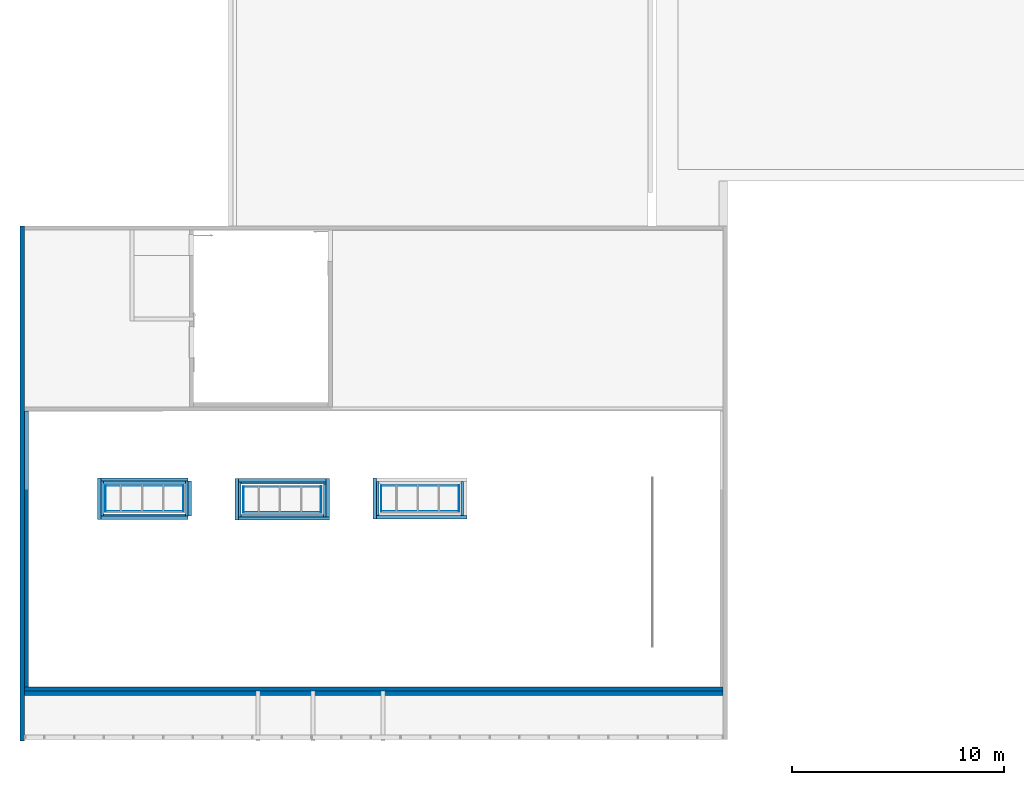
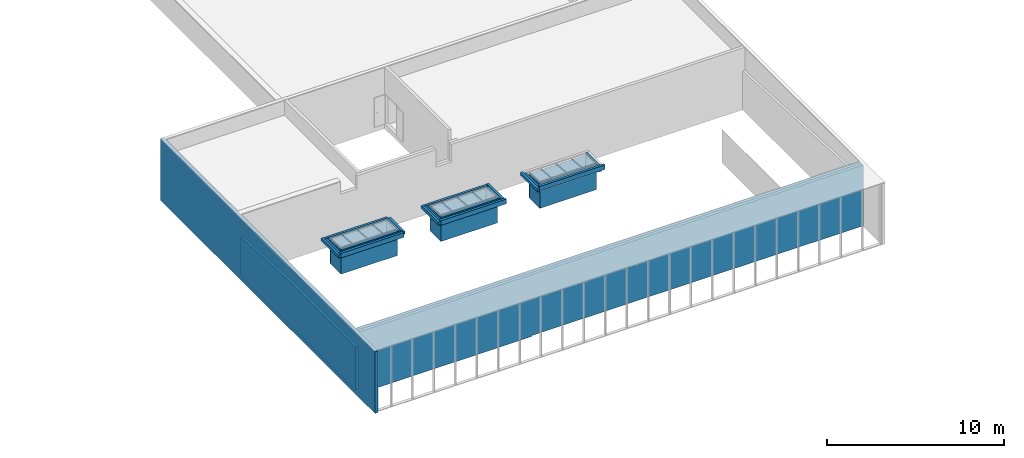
# One storey, part 35 of 106: 36 walls, 3 openings.
"""IFC2X3 building model written with IfcOpenShell, lengths in centimetres."""

from ifc_helpers import new_model, entity, si_unit, converted_unit, derived_unit, direction, frame, frame_2d, origin, place, context, subcontext, project, spatial, polyline, rectangle, extrude, clip, halfspace, bounded_halfspace, material, layer, layer_set, layer_usage, type_object, element, save


model = new_model("IFC2X3")

# Units and contexts
model_context = context("Model", 3, precision=0.001, world=origin(), true_north=direction((6.12303176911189e-17, 1.0)))
body_context = subcontext(model_context, "Body", "Model", "MODEL_VIEW")
ifc_project = project(units=[si_unit("LENGTHUNIT", "METRE", prefix="CENTI"), si_unit("AREAUNIT", "SQUARE_METRE"), si_unit("VOLUMEUNIT", "CUBIC_METRE"), converted_unit("PLANEANGLEUNIT", "DEGREE", entity("IfcRatioMeasure", 0.0174532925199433), si_unit("PLANEANGLEUNIT", "RADIAN"), dimensions=[0, 0, 0, 0, 0, 0, 0]), si_unit("MASSUNIT", "GRAM", prefix="KILO"), derived_unit("MASSDENSITYUNIT", [(si_unit("MASSUNIT", "GRAM", prefix="KILO"), 1), (si_unit("LENGTHUNIT", "METRE"), -3)]), si_unit("TIMEUNIT", "SECOND"), si_unit("FREQUENCYUNIT", "HERTZ"), si_unit("THERMODYNAMICTEMPERATUREUNIT", "DEGREE_CELSIUS"), derived_unit("THERMALTRANSMITTANCEUNIT", [(si_unit("MASSUNIT", "GRAM", prefix="KILO"), 1), (si_unit("THERMODYNAMICTEMPERATUREUNIT", "KELVIN"), -1), (si_unit("TIMEUNIT", "SECOND"), -3)]), derived_unit("VOLUMETRICFLOWRATEUNIT", [(si_unit("LENGTHUNIT", "METRE"), 3), (si_unit("TIMEUNIT", "SECOND"), -1)]), si_unit("ELECTRICCURRENTUNIT", "AMPERE"), si_unit("ELECTRICVOLTAGEUNIT", "VOLT"), si_unit("POWERUNIT", "WATT"), si_unit("FORCEUNIT", "NEWTON", prefix="KILO"), si_unit("ILLUMINANCEUNIT", "LUX"), si_unit("LUMINOUSFLUXUNIT", "LUMEN"), si_unit("LUMINOUSINTENSITYUNIT", "CANDELA"), derived_unit("USERDEFINED", [(si_unit("MASSUNIT", "GRAM", prefix="KILO"), -1), (si_unit("LENGTHUNIT", "METRE"), -2), (si_unit("TIMEUNIT", "SECOND"), 3), (si_unit("LUMINOUSFLUXUNIT", "LUMEN"), 1)]), derived_unit("LINEARVELOCITYUNIT", [(si_unit("LENGTHUNIT", "METRE"), 1), (si_unit("TIMEUNIT", "SECOND"), -1)]), si_unit("PRESSUREUNIT", "PASCAL"), derived_unit("USERDEFINED", [(si_unit("LENGTHUNIT", "METRE"), -2), (si_unit("MASSUNIT", "GRAM", prefix="KILO"), 1), (si_unit("TIMEUNIT", "SECOND"), -2)])], contexts=[model_context])

# Site, building, storey
site_placement = place(None, frame((-2781.94577612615, 7442.24238424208, 0.0)))
site = spatial("IfcSite", under=ifc_project, at=site_placement, Name="Default", CompositionType="ELEMENT")
building_placement = place(site_placement, origin())
building = spatial("IfcBuilding", under=site, at=building_placement, CompositionType="ELEMENT")
storey_placement = place(building_placement, frame((0.0, 0.0, 422.0)))
storey = spatial("IfcBuildingStorey", under=building, at=storey_placement, Name="Toiture - Cuisine", CompositionType="ELEMENT", Elevation=421.999999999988)

# Wall, opening
ifc_material_1 = material(Name="Aluminium bardage")
ifc_layer_1 = layer(ifc_material_1, 0.5)
ifc_material_2 = material(Name="01 - Lame d'air")
ifc_layer_2 = layer(ifc_material_2, 1.5)
ifc_material_3 = material(Name="00 - Isolant")
ifc_layer_3 = layer(ifc_material_3, 18.0)
ifc_layer_set_1 = layer_set([ifc_layer_1, ifc_layer_2, ifc_layer_3], Name="Mur de base:04 - Parement - ITE 18cm + vide 2cm")
ifc_layer_usage_1 = layer_usage(ifc_layer_set_1, "AXIS2", "POSITIVE", -10.0)
wall_type_1 = type_object("IfcWallType", Name="Mur de base:04 - Parement - ITE 18cm + vide 2cm", PredefinedType="STANDARD", material=ifc_layer_set_1)
wall_1_placement = place(building_placement, frame((-11864.3505746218, -5556.50173441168, 313.0)))
wall_1 = element("IfcWallStandardCase", 1, at=wall_1_placement, inside=storey, type_object=wall_type_1, material=ifc_layer_usage_1, Name="Mur de base:04 - Parement - ITE 18cm + vide 2cm", ObjectType="Mur de base:04 - Parement - ITE 18cm + vide 2cm", context=body_context, shape_type="SweptSolid", body=[
    extrude(rectangle(XDim=3295.36319372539, YDim=20.0000000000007, at=frame_2d((1647.6815968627, -8.26005930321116e-14), x_axis=(-1.0, 0.0))), origin(), (0.0, 0.0, 1.0), 427.0),
])
opening_1_placement = place(wall_1_placement, origin())
element("IfcOpeningElement", 2, at=opening_1_placement, cuts=wall_1, Name="Mur de base:04 - Parement - ITE 18cm + vide 2cm", ObjectType="Opening", context=body_context, shape_type="SweptSolid", body=[
    extrude(rectangle(XDim=319.50860145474, YDim=2180.12936523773, at=frame_2d((0.0, 0.0), x_axis=(0.0, 1.0))), frame((2219.59851110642, -25.2399999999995, -153.24569927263), z_axis=(0.0, 1.0, 0.0), x_axis=(-1.0, 0.0, 0.0)), (0.0, 0.0, 1.0), 50.4799999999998),
])

# Wall
ifc_material_4 = material(Name="01 - Maçonnerie")
ifc_layer_4 = layer(ifc_material_4, 20.0)
ifc_layer_set_2 = layer_set([ifc_layer_4], Name="Mur de base:04 - Structure - béton - 20cm")
ifc_layer_usage_2 = layer_usage(ifc_layer_set_2, "AXIS2", "NEGATIVE", 10.0)
wall_type_2 = type_object("IfcWallType", Name="Mur de base:04 - Structure - béton - 20cm", PredefinedType="STANDARD", material=ifc_layer_set_2)
wall_2_placement = place(building_placement, frame((-11874.3505746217, -3352.52180651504, 313.0), z_axis=(0.0, 0.0, 1.0), x_axis=(0.0, -1.0, 0.0)))
element("IfcWallStandardCase", 3, at=wall_2_placement, inside=storey, type_object=wall_type_2, material=ifc_layer_usage_2, Name="Mur de base:04 - Structure - béton - 20cm", ObjectType="Mur de base:04 - Structure - béton - 20cm", context=body_context, shape_type="SweptSolid", body=[
    extrude(rectangle(XDim=2428.97992789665, YDim=19.9999999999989, at=frame_2d((1214.48996394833, 2.21156426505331e-13), x_axis=(-1.0, 0.0))), origin(), (0.0, 0.0, 1.0), 426.99999999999),
])

# Wall, opening
ifc_layer_usage_3 = layer_usage(ifc_layer_set_2, "AXIS2", "NEGATIVE", 10.0)
wall_3_placement = place(building_placement, frame((-11864.3505746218, -5536.50173441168, 313.0)))
wall_3 = element("IfcWallStandardCase", 4, at=wall_3_placement, inside=storey, type_object=wall_type_2, material=ifc_layer_usage_3, Name="Mur de base:04 - Structure - béton - 20cm", ObjectType="Mur de base:04 - Structure - béton - 20cm", context=body_context, shape_type="SweptSolid", body=[
    extrude(rectangle(XDim=3295.36319372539, YDim=20.0000000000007, at=frame_2d((1647.6815968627, 7.8159700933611e-14), x_axis=(-1.0, 0.0))), origin(), (0.0, 0.0, 1.0), 427.0),
])
opening_2_placement = place(building_placement, frame((-11864.3505746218, -5536.50173441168, 313.0)))
element("IfcOpeningElement", 5, at=opening_2_placement, cuts=wall_3, Name="Mur de base:04 - Structure - béton - 20cm:1", ObjectType="Opening", context=body_context, shape_type="SweptSolid", body=[
    extrude(rectangle(XDim=19.9999999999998, YDim=1040.7, at=frame_2d((4.32542890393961e-13, 8.5265128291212e-13), x_axis=(1.0, 0.0))), frame((2759.71319372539, 0.0, 167.0), z_axis=(0.0, 0.0, 1.0), x_axis=(0.0, -1.0, 0.0)), (0.0, 0.0, 1.0), 6.99999999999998),
])

# Walls
ifc_layer_5 = layer(ifc_material_3, 16.0)
ifc_layer_set_3 = layer_set([ifc_layer_5], Name="Mur de base:04 - retour isolation acrotère - ITE 16cm")
ifc_layer_usage_4 = layer_usage(ifc_layer_set_3, "AXIS2", "NEGATIVE", 8.0)
wall_type_3 = type_object("IfcWallType", Name="Mur de base:04 - retour isolation acrotère - ITE 16cm", PredefinedType="STANDARD", material=ifc_layer_set_3)
wall_4_placement = place(building_placement, frame((-11512.3505746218, -4736.50027342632, 625.629986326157), z_axis=(0.0, 0.0, 1.0), x_axis=(0.0, 1.0, 0.0)))
element("IfcWallStandardCase", 6, at=wall_4_placement, inside=storey, type_object=wall_type_3, material=ifc_layer_usage_4, Name="Mur de base:04 - retour isolation acrotère - ITE 16cm", ObjectType="Mur de base:04 - retour isolation acrotère - ITE 16cm", context=body_context, shape_type="Clipping", body=[
    clip(extrude(rectangle(XDim=196.000000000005, YDim=15.9999999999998, at=frame_2d((98.0000000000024, 0.0), x_axis=(-1.0, 0.0))), origin(), (0.0, 0.0, 1.0), 20.0935257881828), bounded_halfspace(frame((47.145022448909, -8.0, 0.0), z_axis=(0.0523359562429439, 0.0, 0.998629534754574), x_axis=(0.0, 1.0, 0.0)), True, frame((47.145022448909, -8.0, 0.0), z_axis=(0.0523359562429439, 0.0, 0.998629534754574), x_axis=(0.0, 1.0, 0.0)), polyline([(0.0, 0.0), (16.0, 0.0), (16.0, 47.2097217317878), (0.0, 47.2097217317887), (0.0, 20.8925692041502), (0.0, 0.0)]))),
])
ifc_layer_usage_5 = layer_usage(ifc_layer_set_3, "AXIS2", "NEGATIVE", 8.0)
wall_5_placement = place(building_placement, frame((-11076.3505746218, -4728.50027342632, 620.73417307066), z_axis=(0.0, 0.0, 1.0), x_axis=(-1.0, 0.0, 0.0)))
element("IfcWallStandardCase", 7, at=wall_5_placement, inside=storey, type_object=wall_type_3, material=ifc_layer_usage_5, Name="Mur de base:04 - retour isolation acrotère - ITE 16cm", ObjectType="Mur de base:04 - retour isolation acrotère - ITE 16cm", context=body_context, shape_type="SweptSolid", body=[
    extrude(rectangle(XDim=411.999999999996, YDim=15.9999999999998, at=frame_2d((221.999999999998, 4.9737991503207e-14), x_axis=(-1.0, 0.0))), origin(), (0.0, 0.0, 1.0), 31.7658269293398),
])
ifc_layer_usage_6 = layer_usage(ifc_layer_set_3, "AXIS2", "NEGATIVE", 8.0)
wall_6_placement = place(building_placement, frame((-10862.3505746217, -4740.50027342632, 625.629986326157), z_axis=(0.0, 0.0, 1.0), x_axis=(0.0, 1.0, 0.0)))
element("IfcWallStandardCase", 8, at=wall_6_placement, inside=storey, type_object=wall_type_3, material=ifc_layer_usage_6, Name="Mur de base:04 - retour isolation acrotère - ITE 16cm", ObjectType="Mur de base:04 - retour isolation acrotère - ITE 16cm", context=body_context, shape_type="Clipping", body=[
    clip(extrude(rectangle(XDim=196.000000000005, YDim=15.9999999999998, at=frame_2d((98.0000000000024, 0.0), x_axis=(-1.0, 0.0))), origin(), (0.0, 0.0, 1.0), 20.0935257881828), bounded_halfspace(frame((51.1450224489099, -8.0, 0.0), z_axis=(0.0523359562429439, 0.0, 0.998629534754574), x_axis=(0.0, 1.0, 0.0)), True, frame((51.1450224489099, -8.0, 0.0), z_axis=(0.0523359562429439, 0.0, 0.998629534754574), x_axis=(0.0, 1.0, 0.0)), polyline([(0.0, 0.0), (16.0, 0.0), (16.0, 51.2152111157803), (0.0, 51.2152111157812), (0.0, 20.892569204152), (0.0, 0.0)]))),
])
ifc_layer_usage_7 = layer_usage(ifc_layer_set_3, "AXIS2", "NEGATIVE", 8.0)
wall_7_placement = place(building_placement, frame((-10426.3505746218, -4732.50027342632, 620.73417307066), z_axis=(0.0, 0.0, 1.0), x_axis=(-1.0, 0.0, 0.0)))
element("IfcWallStandardCase", 9, at=wall_7_placement, inside=storey, type_object=wall_type_3, material=ifc_layer_usage_7, Name="Mur de base:04 - retour isolation acrotère - ITE 16cm", ObjectType="Mur de base:04 - retour isolation acrotère - ITE 16cm", context=body_context, shape_type="SweptSolid", body=[
    extrude(rectangle(XDim=427.999999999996, YDim=15.9999999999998, at=frame_2d((213.999999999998, 1.68753899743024e-14), x_axis=(-1.0, 0.0))), origin(), (0.0, 0.0, 1.0), 31.7658269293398),
])
ifc_layer_usage_8 = layer_usage(ifc_layer_set_3, "AXIS2", "NEGATIVE", 8.0)
wall_8_placement = place(building_placement, frame((-10442.3505746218, -4552.50027342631, 611.404543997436), z_axis=(0.0, 0.0, 1.0), x_axis=(-1.0, 0.0, 0.0)))
element("IfcWallStandardCase", 10, at=wall_8_placement, inside=storey, type_object=wall_type_3, material=ifc_layer_usage_8, Name="Mur de base:04 - retour isolation acrotère - ITE 16cm", ObjectType="Mur de base:04 - retour isolation acrotère - ITE 16cm", context=body_context, shape_type="SweptSolid", body=[
    extrude(rectangle(XDim=411.999999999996, YDim=15.9999999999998, at=frame_2d((205.999999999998, -1.68753899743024e-14), x_axis=(-1.0, 0.0))), origin(), (0.0, 0.0, 1.0), 33.7171092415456),
])
ifc_layer_usage_9 = layer_usage(ifc_layer_set_3, "AXIS2", "NEGATIVE", 8.0)
wall_9_placement = place(building_placement, frame((-11076.3505746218, -4548.50027342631, 611.404543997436), z_axis=(0.0, 0.0, 1.0), x_axis=(-1.0, 0.0, 0.0)))
element("IfcWallStandardCase", 11, at=wall_9_placement, inside=storey, type_object=wall_type_3, material=ifc_layer_usage_9, Name="Mur de base:04 - retour isolation acrotère - ITE 16cm", ObjectType="Mur de base:04 - retour isolation acrotère - ITE 16cm", context=body_context, shape_type="SweptSolid", body=[
    extrude(rectangle(XDim=411.999999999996, YDim=15.9999999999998, at=frame_2d((221.999999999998, 4.9737991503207e-14), x_axis=(-1.0, 0.0))), origin(), (0.0, 0.0, 1.0), 33.7171092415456),
])
ifc_layer_usage_10 = layer_usage(ifc_layer_set_3, "AXIS2", "NEGATIVE", 8.0)
wall_10_placement = place(building_placement, frame((-10434.3505746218, -4544.50027342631, 625.393595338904), z_axis=(0.0, 0.0, 1.0), x_axis=(0.0, -1.0, 0.0)))
element("IfcWallStandardCase", 12, at=wall_10_placement, inside=storey, type_object=wall_type_3, material=ifc_layer_usage_10, Name="Mur de base:04 - retour isolation acrotère - ITE 16cm", ObjectType="Mur de base:04 - retour isolation acrotère - ITE 16cm", context=body_context, shape_type="Clipping", body=[
    clip(extrude(rectangle(XDim=180.000000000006, YDim=15.9999999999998, at=frame_2d((90.0000000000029, 0.0), x_axis=(-1.0, 0.0))), origin(), (0.0, 0.0, 1.0), 20.3299167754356), bounded_halfspace(frame((165.718914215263, -8.0, 1.32982357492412), z_axis=(-0.0523359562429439, 0.0, 0.998629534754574), x_axis=(0.0, -1.0, 0.0)), True, frame((165.718914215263, -8.0, 1.32982357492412), z_axis=(-0.0523359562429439, 0.0, 0.998629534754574), x_axis=(0.0, -1.0, 0.0)), polyline([(0.0, 0.0), (0.0, 14.3006843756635), (-16.0, 14.3006843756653), (-16.0, -25.4093680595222), (0.0, -25.409368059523), (0.0, 0.0)]))),
])
ifc_layer_usage_11 = layer_usage(ifc_layer_set_3, "AXIS2", "NEGATIVE", 8.0)
wall_11_placement = place(building_placement, frame((-11084.3505746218, -4556.50027342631, 625.393595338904), z_axis=(0.0, 0.0, 1.0), x_axis=(0.0, -1.0, 0.0)))
element("IfcWallStandardCase", 13, at=wall_11_placement, inside=storey, type_object=wall_type_3, material=ifc_layer_usage_11, Name="Mur de base:04 - retour isolation acrotère - ITE 16cm", ObjectType="Mur de base:04 - retour isolation acrotère - ITE 16cm", context=body_context, shape_type="Clipping", body=[
    clip(extrude(rectangle(XDim=164.000000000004, YDim=15.9999999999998, at=frame_2d((82.0000000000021, 0.0), x_axis=(-1.0, 0.0))), origin(), (0.0, 0.0, 1.0), 20.3299167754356), bounded_halfspace(frame((153.718914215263, -8.0, 1.32982357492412), z_axis=(-0.0523359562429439, 0.0, 0.998629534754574), x_axis=(0.0, -1.0, 0.0)), True, frame((153.718914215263, -8.0, 1.32982357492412), z_axis=(-0.0523359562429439, 0.0, 0.998629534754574), x_axis=(0.0, -1.0, 0.0)), polyline([(0.0, 0.0), (0.0, 10.2951949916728), (-16.0, 10.2951949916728), (-16.0, -25.4093680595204), (0.0, -25.4093680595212), (0.0, 0.0)]))),
])
ifc_layer_usage_12 = layer_usage(ifc_layer_set_3, "AXIS2", "NEGATIVE", 8.0)
wall_12_placement = place(building_placement, frame((-10212.3505746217, -4734.48097835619, 625.629986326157), z_axis=(0.0, 0.0, 1.0), x_axis=(0.0, 1.0, 0.0)))
element("IfcWallStandardCase", 14, at=wall_12_placement, inside=storey, type_object=wall_type_3, material=ifc_layer_usage_12, Name="Mur de base:04 - retour isolation acrotère - ITE 16cm", ObjectType="Mur de base:04 - retour isolation acrotère - ITE 16cm", context=body_context, shape_type="Clipping", body=[
    clip(extrude(rectangle(XDim=192.000000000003, YDim=15.9999999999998, at=frame_2d((96.0000000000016, 0.0), x_axis=(-1.0, 0.0))), origin(), (0.0, 0.0, 1.0), 20.0935257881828), bounded_halfspace(frame((45.1257273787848, -8.0, 0.0), z_axis=(0.0523359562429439, 0.0, 0.998629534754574), x_axis=(0.0, 1.0, 0.0)), True, frame((45.1257273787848, -8.0, 0.0), z_axis=(0.0523359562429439, 0.0, 0.998629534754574), x_axis=(0.0, 1.0, 0.0)), polyline([(0.0, 0.0), (16.0, 0.0), (16.0, 45.1876554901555), (0.0, 45.1876554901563), (0.0, 29.1656979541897), (0.0, 20.8925692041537), (0.0, 0.0)]))),
])
ifc_layer_usage_13 = layer_usage(ifc_layer_set_3, "AXIS2", "NEGATIVE", 8.0)
wall_13_placement = place(building_placement, frame((-9776.35057462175, -4726.48097835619, 627.156401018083), z_axis=(0.0, 0.0, 1.0), x_axis=(-1.0, 0.0, 0.0)))
element("IfcWallStandardCase", 15, at=wall_13_placement, inside=storey, type_object=wall_type_3, material=ifc_layer_usage_13, Name="Mur de base:04 - retour isolation acrotère - ITE 16cm", ObjectType="Mur de base:04 - retour isolation acrotère - ITE 16cm", context=body_context, shape_type="Clipping", body=[
    clip(extrude(rectangle(XDim=427.999999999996, YDim=15.9999999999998, at=frame_2d((213.999999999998, 1.68753899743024e-14), x_axis=(-1.0, 0.0))), origin(), (0.0, 0.0, 1.0), 31.1287738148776), bounded_halfspace(frame((428.0, -8.0, 0.0), z_axis=(0.0, -0.0523359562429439, 0.998629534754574), x_axis=(1.0, 0.0, 0.0)), True, frame((428.0, -8.0, 0.0), z_axis=(0.0, -0.0523359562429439, 0.998629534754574), x_axis=(1.0, 0.0, 0.0)), polyline([(0.0, 0.0), (0.0, 16.0219575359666), (-428.0, 16.0219575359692), (-428.0, 0.0), (-412.0, 0.0), (0.0, 0.0)]))),
])
ifc_material_5 = material(Name="01 - Enduit/Plâtre")
ifc_layer_6 = layer(ifc_material_5, 1.3)
ifc_material_6 = material(Name="00 - VIDE D'AIR")
ifc_layer_7 = layer(ifc_material_6, 0.7)
ifc_layer_set_4 = layer_set([ifc_layer_6, ifc_layer_7], Name="Mur de base:06 - habillage Ba13 collée 2cm")
ifc_layer_usage_14 = layer_usage(ifc_layer_set_4, "AXIS2", "NEGATIVE", 1.0)
wall_type_4 = type_object("IfcWallType", Name="Mur de base:06 - habillage Ba13 collée 2cm", PredefinedType="STANDARD", material=ifc_layer_set_4)
wall_14_placement = place(building_placement, frame((-10832.3505746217, -4703.50027342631, 480.0)))
element("IfcWallStandardCase", 16, at=wall_14_placement, inside=storey, type_object=wall_type_4, material=ifc_layer_usage_14, Name="Mur de base:06 - habillage Ba13 collée 2cm", ObjectType="Mur de base:06 - habillage Ba13 collée 2cm", context=body_context, shape_type="SweptSolid", body=[
    extrude(rectangle(XDim=367.999999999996, YDim=1.99999999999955, at=frame_2d((183.999999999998, -3.46944695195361e-14), x_axis=(-1.0, 0.0))), origin(), (0.0, 0.0, 1.0), 178.704458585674),
])
ifc_layer_usage_15 = layer_usage(ifc_layer_set_4, "AXIS2", "NEGATIVE", 1.0)
wall_15_placement = place(building_placement, frame((-10465.3505746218, -4702.50027342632, 480.0), z_axis=(0.0, 0.0, 1.0), x_axis=(0.0, 1.0, 0.0)))
element("IfcWallStandardCase", 17, at=wall_15_placement, inside=storey, type_object=wall_type_4, material=ifc_layer_usage_15, Name="Mur de base:06 - habillage Ba13 collée 2cm", ObjectType="Mur de base:06 - habillage Ba13 collée 2cm", context=body_context, shape_type="Clipping", body=[
    clip(extrude(rectangle(XDim=122.000000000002, YDim=1.99999999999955, at=frame_2d((61.0000000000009, 0.0), x_axis=(-1.0, 0.0))), origin(), (0.0, 0.0, 1.0), 172.101206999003), halfspace(frame((0.0, -1.0, 172.101206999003), z_axis=(0.052335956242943, 0.0, 0.998629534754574), x_axis=(0.0, 1.0, 0.0)), False)),
])
ifc_layer_usage_16 = layer_usage(ifc_layer_set_4, "AXIS2", "NEGATIVE", 1.0)
wall_16_placement = place(building_placement, frame((-10466.3505746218, -4581.50027342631, 480.0), z_axis=(0.0, 0.0, 1.0), x_axis=(-1.0, 0.0, 0.0)))
element("IfcWallStandardCase", 18, at=wall_16_placement, inside=storey, type_object=wall_type_4, material=ifc_layer_usage_16, Name="Mur de base:06 - habillage Ba13 collée 2cm", ObjectType="Mur de base:06 - habillage Ba13 collée 2cm", context=body_context, shape_type="SweptSolid", body=[
    extrude(rectangle(XDim=365.999999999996, YDim=1.99999999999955, at=frame_2d((182.999999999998, -8.73190408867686e-14), x_axis=(-1.0, 0.0))), origin(), (0.0, 0.0, 1.0), 165.121653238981),
])
ifc_layer_usage_17 = layer_usage(ifc_layer_set_4, "AXIS2", "NEGATIVE", 1.0)
wall_17_placement = place(building_placement, frame((-10831.3505746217, -4582.50027342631, 478.0), z_axis=(0.0, 0.0, 1.0), x_axis=(0.0, -1.0, 0.0)))
element("IfcWallStandardCase", 19, at=wall_17_placement, inside=storey, type_object=wall_type_4, material=ifc_layer_usage_17, Name="Mur de base:06 - habillage Ba13 collée 2cm", ObjectType="Mur de base:06 - habillage Ba13 collée 2cm", context=body_context, shape_type="SweptSolid", body=[
    extrude(rectangle(XDim=120.000000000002, YDim=1.99999999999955, at=frame_2d((60.0000000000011, 0.0), x_axis=(-1.0, 0.0))), origin(), (0.0, 0.0, 1.0), 167.72351211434),
])
ifc_layer_usage_18 = layer_usage(ifc_layer_set_4, "AXIS2", "NEGATIVE", 1.0)
wall_18_placement = place(building_placement, frame((-11482.3505746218, -4699.50027342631, 480.0)))
element("IfcWallStandardCase", 20, at=wall_18_placement, inside=storey, type_object=wall_type_4, material=ifc_layer_usage_18, Name="Mur de base:06 - habillage Ba13 collée 2cm", ObjectType="Mur de base:06 - habillage Ba13 collée 2cm", context=body_context, shape_type="SweptSolid", body=[
    extrude(rectangle(XDim=367.999999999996, YDim=1.99999999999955, at=frame_2d((183.999999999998, -3.46944695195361e-14), x_axis=(-1.0, 0.0))), origin(), (0.0, 0.0, 1.0), 178.704458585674),
])
ifc_layer_usage_19 = layer_usage(ifc_layer_set_4, "AXIS2", "NEGATIVE", 1.0)
wall_19_placement = place(building_placement, frame((-11115.3505746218, -4698.50027342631, 480.0), z_axis=(0.0, 0.0, 1.0), x_axis=(0.0, 1.0, 0.0)))
element("IfcWallStandardCase", 21, at=wall_19_placement, inside=storey, type_object=wall_type_4, material=ifc_layer_usage_19, Name="Mur de base:06 - habillage Ba13 collée 2cm", ObjectType="Mur de base:06 - habillage Ba13 collée 2cm", context=body_context, shape_type="SweptSolid", body=[
    extrude(rectangle(XDim=122.000000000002, YDim=1.99999999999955, at=frame_2d((61.0000000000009, 0.0), x_axis=(-1.0, 0.0))), origin(), (0.0, 0.0, 1.0), 165.72351211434),
])
ifc_layer_usage_20 = layer_usage(ifc_layer_set_4, "AXIS2", "NEGATIVE", 1.0)
wall_20_placement = place(building_placement, frame((-11116.3505746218, -4577.50027342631, 480.0), z_axis=(0.0, 0.0, 1.0), x_axis=(-1.0, 0.0, 0.0)))
element("IfcWallStandardCase", 22, at=wall_20_placement, inside=storey, type_object=wall_type_4, material=ifc_layer_usage_20, Name="Mur de base:06 - habillage Ba13 collée 2cm", ObjectType="Mur de base:06 - habillage Ba13 collée 2cm", context=body_context, shape_type="SweptSolid", body=[
    extrude(rectangle(XDim=365.999999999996, YDim=1.99999999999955, at=frame_2d((182.999999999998, -8.73190408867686e-14), x_axis=(-1.0, 0.0))), origin(), (0.0, 0.0, 1.0), 165.121653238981),
])
ifc_layer_usage_21 = layer_usage(ifc_layer_set_4, "AXIS2", "NEGATIVE", 1.0)
wall_21_placement = place(building_placement, frame((-11481.3505746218, -4578.50027342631, 478.0), z_axis=(0.0, 0.0, 1.0), x_axis=(0.0, -1.0, 0.0)))
element("IfcWallStandardCase", 23, at=wall_21_placement, inside=storey, type_object=wall_type_4, material=ifc_layer_usage_21, Name="Mur de base:06 - habillage Ba13 collée 2cm", ObjectType="Mur de base:06 - habillage Ba13 collée 2cm", context=body_context, shape_type="SweptSolid", body=[
    extrude(rectangle(XDim=120.000000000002, YDim=1.99999999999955, at=frame_2d((60.0000000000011, 0.0), x_axis=(-1.0, 0.0))), origin(), (0.0, 0.0, 1.0), 167.72351211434),
])
ifc_layer_usage_22 = layer_usage(ifc_layer_set_4, "AXIS2", "NEGATIVE", 1.0)
wall_22_placement = place(building_placement, frame((-10182.3505746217, -4699.48097835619, 480.0)))
element("IfcWallStandardCase", 24, at=wall_22_placement, inside=storey, type_object=wall_type_4, material=ifc_layer_usage_22, Name="Mur de base:06 - habillage Ba13 collée 2cm", ObjectType="Mur de base:06 - habillage Ba13 collée 2cm", context=body_context, shape_type="SweptSolid", body=[
    extrude(rectangle(XDim=367.999999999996, YDim=1.99999999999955, at=frame_2d((183.999999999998, -3.46944695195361e-14), x_axis=(-1.0, 0.0))), origin(), (0.0, 0.0, 1.0), 177.16184754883),
])
ifc_layer_usage_23 = layer_usage(ifc_layer_set_4, "AXIS2", "NEGATIVE", 1.0)
wall_23_placement = place(building_placement, frame((-9815.35057462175, -4698.48097835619, 480.0), z_axis=(0.0, 0.0, 1.0), x_axis=(0.0, 1.0, 0.0)))
element("IfcWallStandardCase", 25, at=wall_23_placement, inside=storey, type_object=wall_type_4, material=ifc_layer_usage_23, Name="Mur de base:06 - habillage Ba13 collée 2cm", ObjectType="Mur de base:06 - habillage Ba13 collée 2cm", context=body_context, shape_type="Clipping", body=[
    clip(extrude(rectangle(XDim=122.000000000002, YDim=1.99999999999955, at=frame_2d((61.0000000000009, 0.0), x_axis=(-1.0, 0.0))), origin(), (0.0, 0.0, 1.0), 176.553012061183), halfspace(frame((0.0, -1.0, 176.553012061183), z_axis=(0.0871557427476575, 0.0, 0.996194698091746), x_axis=(0.0, 1.0, 0.0)), False)),
])
ifc_layer_usage_24 = layer_usage(ifc_layer_set_4, "AXIS2", "NEGATIVE", 1.0)
wall_24_placement = place(building_placement, frame((-9816.35057462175, -4577.48097835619, 480.0), z_axis=(0.0, 0.0, 1.0), x_axis=(-1.0, 0.0, 0.0)))
element("IfcWallStandardCase", 26, at=wall_24_placement, inside=storey, type_object=wall_type_4, material=ifc_layer_usage_24, Name="Mur de base:06 - habillage Ba13 collée 2cm", ObjectType="Mur de base:06 - habillage Ba13 collée 2cm", context=body_context, shape_type="SweptSolid", body=[
    extrude(rectangle(XDim=365.999999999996, YDim=1.99999999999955, at=frame_2d((182.999999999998, -8.73190408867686e-14), x_axis=(-1.0, 0.0))), origin(), (0.0, 0.0, 1.0), 165.121653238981),
])
ifc_layer_usage_25 = layer_usage(ifc_layer_set_4, "AXIS2", "NEGATIVE", 1.0)
wall_25_placement = place(building_placement, frame((-10181.3505746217, -4578.48097835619, 478.0), z_axis=(0.0, 0.0, 1.0), x_axis=(0.0, -1.0, 0.0)))
element("IfcWallStandardCase", 27, at=wall_25_placement, inside=storey, type_object=wall_type_4, material=ifc_layer_usage_25, Name="Mur de base:06 - habillage Ba13 collée 2cm", ObjectType="Mur de base:06 - habillage Ba13 collée 2cm", context=body_context, shape_type="SweptSolid", body=[
    extrude(rectangle(XDim=120.000000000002, YDim=1.99999999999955, at=frame_2d((60.0000000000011, 0.0), x_axis=(-1.0, 0.0))), origin(), (0.0, 0.0, 1.0), 167.72351211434),
])

# Wall, opening
ifc_layer_8 = layer(ifc_material_3, 17.7)
ifc_layer_9 = layer(ifc_material_5, 1.3)
ifc_layer_set_5 = layer_set([ifc_layer_8, ifc_layer_9], Name="Mur de base:04 - Parement -  isolant 20 cm + BA13 2")
ifc_layer_usage_26 = layer_usage(ifc_layer_set_5, "AXIS2", "POSITIVE", -9.5)
wall_type_5 = type_object("IfcWallType", Name="Mur de base:04 - Parement -  isolant 20 cm + BA13 2", PredefinedType="STANDARD", material=ifc_layer_set_5)
wall_26_placement = place(building_placement, frame((-11854.8505746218, -4225.50027342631, 313.0), z_axis=(0.0, 0.0, 1.0), x_axis=(0.0, -1.0, 0.0)))
wall_26 = element("IfcWallStandardCase", 28, at=wall_26_placement, inside=storey, type_object=wall_type_5, material=ifc_layer_usage_26, Name="Mur de base:04 - Parement -  isolant 20 cm + BA13 2", ObjectType="Mur de base:04 - Parement -  isolant 20 cm + BA13 2", context=body_context, shape_type="SweptSolid", body=[
    extrude(rectangle(XDim=1301.00146098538, YDim=18.9999999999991, at=frame_2d((650.500730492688, 0.0), x_axis=(-1.0, 0.0))), origin(), (0.0, 0.0, 1.0), 294.99999999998),
])
opening_3_placement = place(building_placement, frame((-11854.8505746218, -4225.50027342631, 313.0), z_axis=(0.0, 0.0, 1.0), x_axis=(0.0, -1.0, 0.0)))
element("IfcOpeningElement", 29, at=opening_3_placement, cuts=wall_26, Name="Mur de base:04 - Parement -  isolant 20 cm + BA13 2:1", ObjectType="Opening", context=body_context, shape_type="SweptSolid", body=[
    extrude(rectangle(XDim=519.867372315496, YDim=18.9999999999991, at=frame_2d((-4.54747350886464e-13, 0.0), x_axis=(1.0, 0.0))), frame((259.577456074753, 0.0, 281.396121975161), z_axis=(-0.0523359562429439, 0.0, 0.998629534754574), x_axis=(0.998629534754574, 0.0, 0.0523359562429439)), (0.0, 0.0, 1.0), 821.451998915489),
])

# Walls
ifc_material_7 = material(Name="Bois - Bois de construction de dimensions courantes")
ifc_layer_10 = layer(ifc_material_7, 12.0)
ifc_layer_set_6 = layer_set([ifc_layer_10], Name="Mur de base:04 - Structure - Poutre bois - (12x25 ht) 3")
ifc_layer_usage_27 = layer_usage(ifc_layer_set_6, "AXIS2", "NEGATIVE", 6.0)
wall_type_6 = type_object("IfcWallType", Name="Mur de base:04 - Structure - Poutre bois - (12x25 ht) 3", PredefinedType="STANDARD", material=ifc_layer_set_6)
wall_27_placement = place(building_placement, frame((-11098.3505746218, -4556.50027342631, 610.140763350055), z_axis=(0.0, 0.0, 1.0), x_axis=(0.0, -1.0, 0.0)))
element("IfcWallStandardCase", 30, at=wall_27_placement, inside=storey, type_object=wall_type_6, material=ifc_layer_usage_27, Name="Mur de base:04 - Structure - Poutre bois - (12x25 ht) 3", ObjectType="Mur de base:04 - Structure - Poutre bois - (12x25 ht) 3", context=body_context, shape_type="SweptSolid", body=[
    extrude(rectangle(XDim=164.000000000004, YDim=12.0000000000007, at=frame_2d((82.0000000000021, 0.0), x_axis=(-1.0, 0.0))), origin(), (0.0, 0.0, 1.0), 35.582748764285),
])
ifc_layer_usage_28 = layer_usage(ifc_layer_set_6, "AXIS2", "NEGATIVE", 6.0)
wall_28_placement = place(building_placement, frame((-10448.3505746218, -4570.50027342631, 610.140763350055), z_axis=(0.0, 0.0, 1.0), x_axis=(0.0, -1.0, 0.0)))
element("IfcWallStandardCase", 31, at=wall_28_placement, inside=storey, type_object=wall_type_6, material=ifc_layer_usage_28, Name="Mur de base:04 - Structure - Poutre bois - (12x25 ht) 3", ObjectType="Mur de base:04 - Structure - Poutre bois - (12x25 ht) 3", context=body_context, shape_type="SweptSolid", body=[
    extrude(rectangle(XDim=154.000000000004, YDim=12.0000000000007, at=frame_2d((77.000000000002, 0.0), x_axis=(-1.0, 0.0))), origin(), (0.0, 0.0, 1.0), 35.582748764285),
])
ifc_layer_usage_29 = layer_usage(ifc_layer_set_6, "AXIS2", "NEGATIVE", 6.0)
wall_29_placement = place(building_placement, frame((-10848.3505746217, -4724.50027342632, 610.663391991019), z_axis=(0.0, 0.0, 1.0), x_axis=(0.0, 1.0, 0.0)))
element("IfcWallStandardCase", 32, at=wall_29_placement, inside=storey, type_object=wall_type_6, material=ifc_layer_usage_29, Name="Mur de base:04 - Structure - Poutre bois - (12x25 ht) 3", ObjectType="Mur de base:04 - Structure - Poutre bois - (12x25 ht) 3", context=body_context, shape_type="SweptSolid", body=[
    extrude(rectangle(XDim=164.000000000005, YDim=12.0000000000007, at=frame_2d((82.0000000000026, 0.0), x_axis=(-1.0, 0.0))), origin(), (0.0, 0.0, 1.0), 35.0601201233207),
])
ifc_layer_usage_30 = layer_usage(ifc_layer_set_6, "AXIS2", "NEGATIVE", 6.0)
wall_30_placement = place(building_placement, frame((-11498.3505746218, -4720.50027342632, 610.663391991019), z_axis=(0.0, 0.0, 1.0), x_axis=(0.0, 1.0, 0.0)))
element("IfcWallStandardCase", 33, at=wall_30_placement, inside=storey, type_object=wall_type_6, material=ifc_layer_usage_30, Name="Mur de base:04 - Structure - Poutre bois - (12x25 ht) 3", ObjectType="Mur de base:04 - Structure - Poutre bois - (12x25 ht) 3", context=body_context, shape_type="SweptSolid", body=[
    extrude(rectangle(XDim=164.000000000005, YDim=12.0000000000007, at=frame_2d((82.0000000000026, 0.0), x_axis=(-1.0, 0.0))), origin(), (0.0, 0.0, 1.0), 35.0601201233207),
])
ifc_layer_usage_31 = layer_usage(ifc_layer_set_6, "AXIS2", "NEGATIVE", 6.0)
wall_31_placement = place(building_placement, frame((-9798.35057462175, -4558.48097835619, 610.140763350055), z_axis=(0.0, 0.0, 1.0), x_axis=(0.0, -1.0, 0.0)))
element("IfcWallStandardCase", 34, at=wall_31_placement, inside=storey, type_object=wall_type_6, material=ifc_layer_usage_31, Name="Mur de base:04 - Structure - Poutre bois - (12x25 ht) 3", ObjectType="Mur de base:04 - Structure - Poutre bois - (12x25 ht) 3", context=body_context, shape_type="SweptSolid", body=[
    extrude(rectangle(XDim=160.000000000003, YDim=12.0000000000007, at=frame_2d((80.0000000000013, 0.0), x_axis=(-1.0, 0.0))), origin(), (0.0, 0.0, 1.0), 35.582748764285),
])
ifc_layer_usage_32 = layer_usage(ifc_layer_set_6, "AXIS2", "NEGATIVE", 6.0)
wall_32_placement = place(building_placement, frame((-10198.3505746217, -4718.48097835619, 610.663391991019), z_axis=(0.0, 0.0, 1.0), x_axis=(0.0, 1.0, 0.0)))
element("IfcWallStandardCase", 35, at=wall_32_placement, inside=storey, type_object=wall_type_6, material=ifc_layer_usage_32, Name="Mur de base:04 - Structure - Poutre bois - (12x25 ht) 3", ObjectType="Mur de base:04 - Structure - Poutre bois - (12x25 ht) 3", context=body_context, shape_type="SweptSolid", body=[
    extrude(rectangle(XDim=160.000000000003, YDim=12.0000000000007, at=frame_2d((80.0000000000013, 0.0), x_axis=(-1.0, 0.0))), origin(), (0.0, 0.0, 1.0), 35.0601201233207),
])
ifc_layer_11 = layer(ifc_material_7, 10.0)
ifc_layer_set_7 = layer_set([ifc_layer_11], Name="Mur de base:04 - Structure - Poutre bois -")
ifc_layer_usage_33 = layer_usage(ifc_layer_set_7, "AXIS2", "NEGATIVE", 5.0)
wall_type_7 = type_object("IfcWallType", Name="Mur de base:04 - Structure - Poutre bois -", PredefinedType="STANDARD", material=ifc_layer_set_7)
wall_33_placement = place(building_placement, frame((-10842.3505746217, -4565.50027342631, 617.624296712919)))
element("IfcWallStandardCase", 36, at=wall_33_placement, inside=storey, type_object=wall_type_7, material=ifc_layer_usage_33, Name="Mur de base:04 - Structure - Poutre bois -", ObjectType="Mur de base:04 - Structure - Poutre bois -", context=body_context, shape_type="SweptSolid", body=[
    extrude(rectangle(XDim=399.999999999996, YDim=9.99999999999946, at=frame_2d((199.999999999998, -3.68594044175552e-14), x_axis=(-1.0, 0.0))), origin(), (0.0, 0.0, 1.0), 27.4973565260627),
])
ifc_layer_usage_34 = layer_usage(ifc_layer_set_7, "AXIS2", "NEGATIVE", 5.0)
wall_34_placement = place(building_placement, frame((-10454.3505746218, -4719.50027342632, 621.667135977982), z_axis=(0.0, 0.0, 1.0), x_axis=(-1.0, 0.0, 0.0)))
element("IfcWallStandardCase", 37, at=wall_34_placement, inside=storey, type_object=wall_type_7, material=ifc_layer_usage_34, Name="Mur de base:04 - Structure - Poutre bois -", ObjectType="Mur de base:04 - Structure - Poutre bois -", context=body_context, shape_type="SweptSolid", body=[
    extrude(rectangle(XDim=387.999999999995, YDim=9.99999999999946, at=frame_2d((193.999999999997, -5.77315972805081e-14), x_axis=(-1.0, 0.0))), origin(), (0.0, 0.0, 1.0), 30.8328640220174),
])
ifc_layer_usage_35 = layer_usage(ifc_layer_set_7, "AXIS2", "NEGATIVE", 5.0)
wall_35_placement = place(building_placement, frame((-11492.3505746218, -4561.50027342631, 617.624296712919)))
element("IfcWallStandardCase", 38, at=wall_35_placement, inside=storey, type_object=wall_type_7, material=ifc_layer_usage_35, Name="Mur de base:04 - Structure - Poutre bois -", ObjectType="Mur de base:04 - Structure - Poutre bois -", context=body_context, shape_type="SweptSolid", body=[
    extrude(rectangle(XDim=387.999999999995, YDim=9.99999999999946, at=frame_2d((193.999999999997, -6.21724893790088e-14), x_axis=(-1.0, 0.0))), origin(), (0.0, 0.0, 1.0), 27.4973565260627),
])
ifc_layer_usage_36 = layer_usage(ifc_layer_set_7, "AXIS2", "NEGATIVE", 5.0)
wall_36_placement = place(building_placement, frame((-11092.3505746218, -4715.50027342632, 621.667135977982), z_axis=(0.0, 0.0, 1.0), x_axis=(-1.0, 0.0, 0.0)))
element("IfcWallStandardCase", 39, at=wall_36_placement, inside=storey, type_object=wall_type_7, material=ifc_layer_usage_36, Name="Mur de base:04 - Structure - Poutre bois -", ObjectType="Mur de base:04 - Structure - Poutre bois -", context=body_context, shape_type="SweptSolid", body=[
    extrude(rectangle(XDim=399.999999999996, YDim=9.99999999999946, at=frame_2d((199.999999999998, -3.28626015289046e-14), x_axis=(-1.0, 0.0))), origin(), (0.0, 0.0, 1.0), 30.8328640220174),
])

save(model, "model.ifc")
